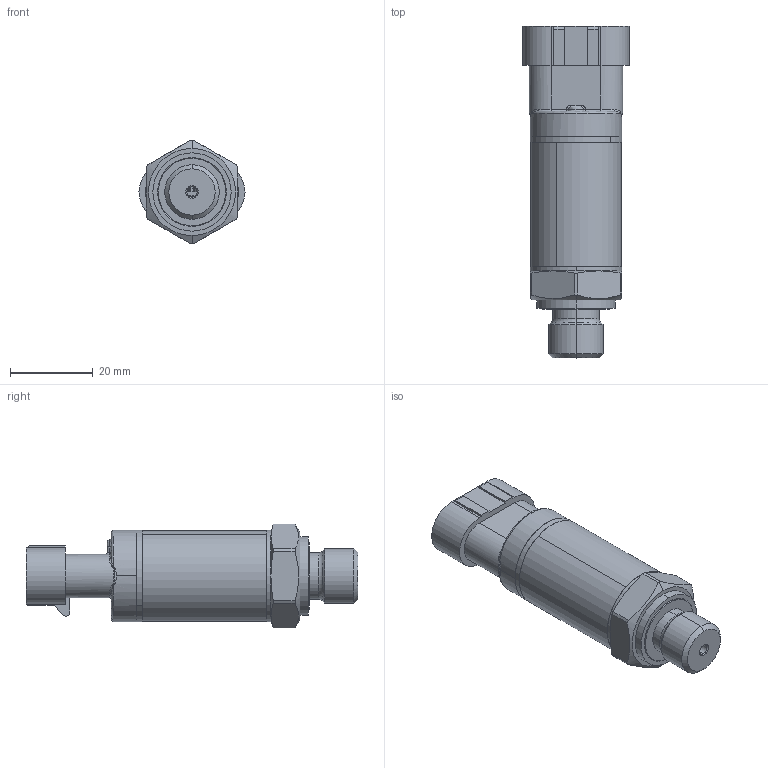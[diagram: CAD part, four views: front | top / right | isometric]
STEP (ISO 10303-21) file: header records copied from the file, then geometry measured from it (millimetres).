
FILE_DESCRIPTION (( 'STEP AP203' ), '1' );
FILE_NAME ('KH_AMP superseal.STEP', '2016-03-03T15:34:13', ( '' ), ( '' ), 'SwSTEP 2.0', 'SolidWorks 2015', '' );
FILE_SCHEMA (( 'CONFIG_CONTROL_DESIGN' ));
Length unit declared in the file: millimetre
Products named in the file (1): KH_AMP superseal
Bounding box: 25.6 x 80.1 x 25 mm (x, y, z)
Volume: 12446.2 mm3; surface area: 13338.7 mm2
Topology: 8 solids, 8 shells, 489 faces, 1234 edges, 769 vertices
Faces by surface type: plane 210, cylinder 154, bspline 80, cone 33, torus 12
Entity records: 18662 total; most frequent: CARTESIAN_POINT 7104, ORIENTED_EDGE 2444, DIRECTION 2331, EDGE_CURVE 1222, AXIS2_PLACEMENT_3D 817, VERTEX_POINT 769, LINE 697, VECTOR 697
